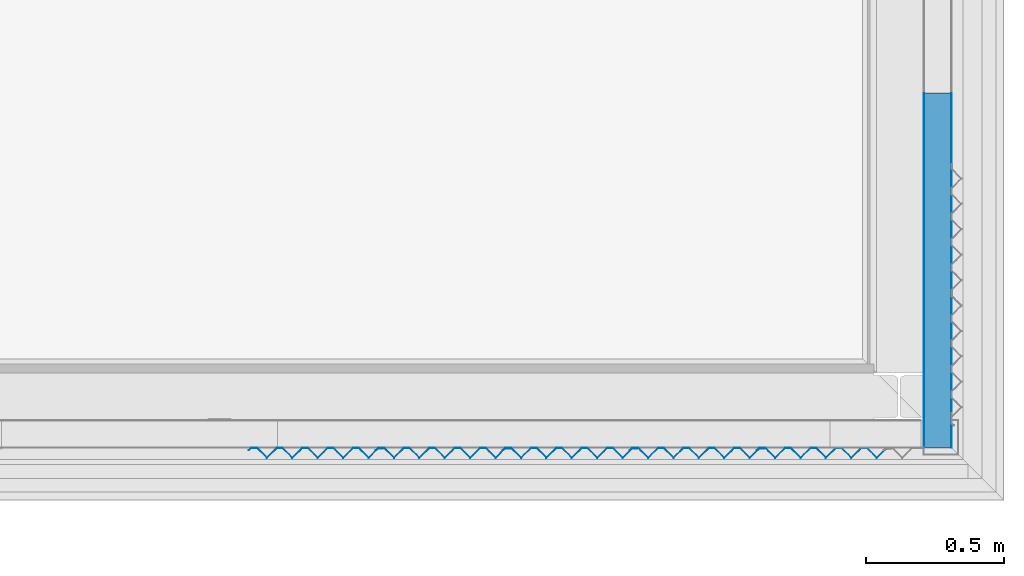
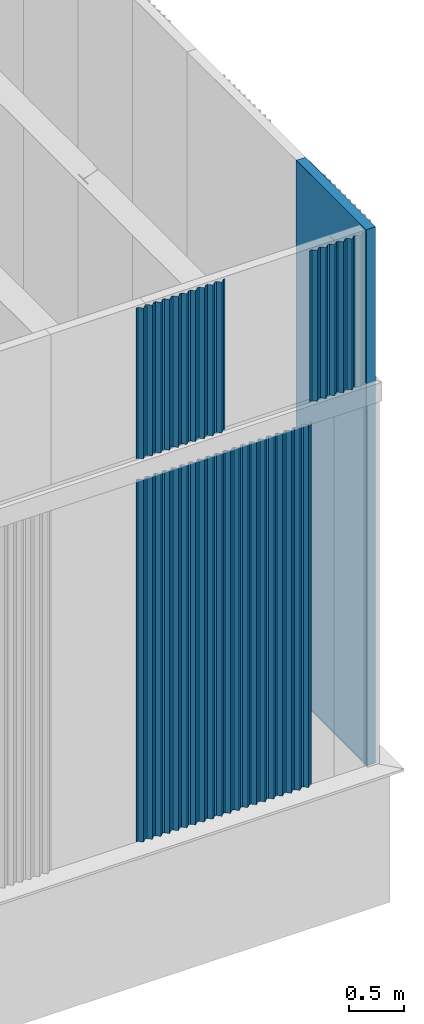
# One storey, part 101 of 338: 10 building element parts, 5 elements without a shape of their own.
"""IFC2X3 building model written with IfcOpenShell, lengths in millimetres."""

from ifc_helpers import new_model, entity, si_unit, converted_unit, derived_unit, money_unit, direction, frame, origin_with_axes, place, context, subcontext, project, spatial, faceted_brep, material, type_object, element, aggregate, save


model = new_model("IFC2X3")

# Units and contexts
model_context = context("Model", 3, precision=0.01, world=origin_with_axes(), true_north=direction((0.0, 1.0)))
plan_context = context("Plan", 3, precision=0.01, world=origin_with_axes(), true_north=direction((0.0, 1.0)))
body_context = subcontext(model_context, "Body", "Model", "MODEL_VIEW")
ifc_project = project(units=[si_unit("LENGTHUNIT", "METRE", prefix="MILLI"), si_unit("AREAUNIT", "SQUARE_METRE"), si_unit("VOLUMEUNIT", "CUBIC_METRE"), converted_unit("PLANEANGLEUNIT", "DEGREE", entity("IfcPlaneAngleMeasure", 0.0174532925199), si_unit("PLANEANGLEUNIT", "RADIAN"), dimensions=[0, 0, 0, 0, 0, 0, 0]), money_unit("EUR"), converted_unit("TIMEUNIT", "Year", entity("IfcTimeMeasure", 31556926.0), si_unit("TIMEUNIT", "SECOND"), dimensions=[0, 0, 1, 0, 0, 0, 0]), si_unit("MASSUNIT", "GRAM", prefix="KILO"), si_unit("THERMODYNAMICTEMPERATUREUNIT", "DEGREE_CELSIUS"), si_unit("LUMINOUSINTENSITYUNIT", "LUMEN"), si_unit("ENERGYUNIT", "JOULE", prefix="MEGA"), derived_unit("THERMALCONDUCTANCEUNIT", [(si_unit("POWERUNIT", "WATT"), 1), (si_unit("LENGTHUNIT", "METRE"), -1), (si_unit("THERMODYNAMICTEMPERATUREUNIT", "KELVIN"), -1)]), derived_unit("SPECIFICHEATCAPACITYUNIT", [(si_unit("ENERGYUNIT", "JOULE"), 1), (si_unit("MASSUNIT", "GRAM", prefix="KILO"), -1), (si_unit("THERMODYNAMICTEMPERATUREUNIT", "KELVIN"), -1)]), derived_unit("MASSDENSITYUNIT", [(si_unit("MASSUNIT", "GRAM", prefix="KILO"), 1), (si_unit("VOLUMEUNIT", "CUBIC_METRE"), -1)])], contexts=[model_context, plan_context])

# Site, building, storey
site_placement = place(None, origin_with_axes())
site = spatial("IfcSite", under=ifc_project, at=site_placement, Name="Fortuinstraat Woensdrecht", CompositionType="ELEMENT")
building_placement = place(site_placement, origin_with_axes())
building = spatial("IfcBuilding", under=site, at=building_placement, Name="IKC Fortuna", CompositionType="ELEMENT")
storey_placement = place(building_placement, origin_with_axes())
storey = spatial("IfcBuildingStorey", under=building, at=storey_placement, Name="00 begane grond", CompositionType="ELEMENT", Elevation=0.0)

# Wall, building element parts
wall_type = type_object("IfcWallType", Name="21 sandwich 100", PredefinedType="NOTDEFINED")
wall_placement = place(storey_placement, frame((59533.4270571, 22181.3126832, 1000.0), z_axis=(0.0, 0.0, 1.0), x_axis=(0.0, -1.0, 0.0)))
wall = element("IfcWall", 1, at=wall_placement, inside=storey, type_object=wall_type, Name="21_Wand_sandwichplaat")
ifc_material_1 = material(Name="Metaal - Aluminium")
building_element_part_1_placement = place(wall_placement, origin_with_axes())
building_element_part_1 = element("IfcBuildingElementPart", 2, at=building_element_part_1_placement, material=ifc_material_1, Name="Metaal - Aluminium", context=body_context, shape_type="Brep", body=[
    faceted_brep([(0.0, -0.999999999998, 6000.0), (1285.01605496, -0.999999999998, 6000.0), (1285.01605496, 0.0, 6000.0), (0.0, 0.0, 6000.0), (0.0, -0.999999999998, 0.0), (1285.01605496, -0.999999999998, 0.0), (1285.01605496, 0.0, 0.0), (0.0, 0.0, 0.0)], [[[0, 1, 2, 3]], [[4, 5, 1, 0]], [[2, 1, 5, 6]], [[3, 2, 6, 7]], [[4, 0, 3, 7]], [[7, 6, 5, 4]]]),
])
ifc_material_2 = material(Name="Isolatie - Kunststof hard")
building_element_part_2_placement = place(wall_placement, origin_with_axes())
building_element_part_2 = element("IfcBuildingElementPart", 3, at=building_element_part_2_placement, material=ifc_material_2, Name="Isolatie - Kunststof hard", context=body_context, shape_type="Brep", body=[
    faceted_brep([(1285.01605496, -99.0, 6000.0), (1285.01605496, -0.999999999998, 6000.0), (0.0, -0.999999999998, 6000.0), (0.0, -99.0, 6000.0), (1285.01605496, -99.0, 0.0), (1285.01605496, -0.999999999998, 0.0), (0.0, -0.999999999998, 0.0), (0.0, -99.0, 0.0)], [[[0, 1, 2, 3]], [[0, 4, 5, 1]], [[1, 5, 6, 2]], [[3, 2, 6, 7]], [[4, 0, 3, 7]], [[5, 4, 7, 6]]]),
])
building_element_part_3_placement = place(wall_placement, origin_with_axes())
building_element_part_3 = element("IfcBuildingElementPart", 4, at=building_element_part_3_placement, material=ifc_material_1, Name="Metaal - Aluminium", context=body_context, shape_type="Brep", body=[
    faceted_brep([(1186.01268746, -100.0, 0.0), (1186.01605494, -100.0, 18.9261694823), (1186.01605494, -98.9999999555, 18.9261694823), (1186.01268746, -99.0033674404, 0.0), (1285.01605496, -100.0, 0.0), (1285.01605496, -100.0, 6000.0), (0.0, -100.0, 6000.0), (0.0, -99.9999999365, 18.9263474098), (1185.01605496, -99.9999999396, 18.9263474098), (0.0, -99.0, 18.9261694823), (1285.01605496, -99.0, 6000.0), (1285.01605496, -99.0, 0.0), (0.0, -99.0, 6000.0)], [[[0, 1, 2, 3]], [[4, 5, 6, 7, 8, 1, 0]], [[1, 8, 7, 9, 2]], [[10, 11, 3, 2, 9, 12]], [[4, 0, 3, 11]], [[5, 4, 11, 10]], [[6, 5, 10, 12]], [[7, 6, 12, 9]]]),
])
aggregate(wall, [building_element_part_1, building_element_part_2, building_element_part_3])

# Proxy, building element parts
building_element_proxy_type_1 = type_object("IfcBuildingElementProxyType", Name="21 Sandwich custom pyramid 946 x 37", PredefinedType="NOTDEFINED")
proxy_1_placement = place(storey_placement, frame((58854.9270571, 20896.2966283, 1000.0), z_axis=(0.0, 0.0, 1.0), x_axis=(-1.0, 0.0, 0.0)))
proxy_1 = element("IfcBuildingElementProxy", 5, at=proxy_1_placement, inside=storey, type_object=building_element_proxy_type_1, Name="41_Generieke bekleding & afwerking buiten_sandwich custom pyramid")
building_element_part_4_placement = place(proxy_1_placement, origin_with_axes())
building_element_part_4 = element("IfcBuildingElementPart", 6, at=building_element_part_4_placement, material=ifc_material_1, Name="Metaal - Aluminium", context=body_context, shape_type="Brep", body=[
    faceted_brep([(0.0, 2.39999686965, 0.0), (0.0, 1.20000548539, 0.0), (0.0, 1.20000548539, 4060.85690076), (0.0, 2.39999686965, 4060.85690076), (16.7470988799, 2.39999686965, 0.0), (52.0000026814, 36.6736482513, 0.0), (88.487191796, 1.20000548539, 0.0), (107.51282048, 1.20000548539, 0.0), (143.999995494, 36.6736482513, 0.0), (180.487184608, 1.20000548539, 0.0), (199.512813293, 1.20000548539, 0.0), (236.000002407, 36.6736482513, 0.0), (272.487191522, 1.20000548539, 0.0), (291.512820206, 1.20000548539, 0.0), (327.99999522, 36.6736482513, 0.0), (364.487184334, 1.20000548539, 0.0), (383.512813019, 1.20000548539, 0.0), (420.000002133, 36.6736482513, 0.0), (456.487191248, 1.20000548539, 0.0), (460.000006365, 1.20000548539, 0.0), (477.23428491, 1.20000548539, 0.0), (485.472879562, 9.20975302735, 0.0), (486.309372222, 8.34935896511, 0.0), (477.721464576, 0.0, 0.0), (455.999997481, 0.0, 0.0), (420.000002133, 35.0000001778, 0.0), (384.000006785, 0.0, 0.0), (364.000004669, 0.0, 0.0), (327.99999522, 35.0000001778, 0.0), (291.999999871, 0.0, 0.0), (271.999997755, 0.0, 0.0), (236.000002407, 35.0000001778, 0.0), (199.999992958, 0.0, 0.0), (180.000004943, 0.0, 0.0), (143.999995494, 35.0000001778, 0.0), (108.000000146, 0.0, 0.0), (87.9999980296, 0.0, 0.0), (52.0000026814, 35.0000001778, 0.0), (17.2342926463, 1.20000548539, 0.0), (17.2342926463, 1.20000548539, 4060.85690076), (52.0000026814, 35.0000001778, 4060.85690076), (87.9999980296, 0.0, 4060.85690076), (108.000000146, 0.0, 4060.85690076), (143.999995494, 35.0000001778, 4060.85690076), (180.000004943, 0.0, 4060.85690076), (199.999992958, 0.0, 4060.85690076), (236.000002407, 35.0000001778, 4060.85690076), (271.999997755, 0.0, 4060.85690076), (291.999999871, 0.0, 4060.85690076), (327.99999522, 35.0000001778, 4060.85690076), (364.000004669, 0.0, 4060.85690076), (384.000006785, 0.0, 4060.85690076), (420.000002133, 35.0000001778, 4060.85690076), (455.999997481, 0.0, 4060.85690076), (477.721464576, 0.0, 4060.85690076), (486.309372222, 8.34935896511, 4060.85690076), (485.472879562, 9.20975302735, 4060.85690076), (477.23428491, 1.20000548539, 4060.85690076), (460.000006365, 1.20000548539, 4060.85690076), (456.487191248, 1.20000548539, 4060.85690076), (420.000002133, 36.6736482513, 4060.85690076), (383.512813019, 1.20000548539, 4060.85690076), (364.487184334, 1.20000548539, 4060.85690076), (327.99999522, 36.6736482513, 4060.85690076), (291.512820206, 1.20000548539, 4060.85690076), (272.487191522, 1.20000548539, 4060.85690076), (236.000002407, 36.6736482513, 4060.85690076), (199.512813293, 1.20000548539, 4060.85690076), (180.487184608, 1.20000548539, 4060.85690076), (143.999995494, 36.6736482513, 4060.85690076), (107.51282048, 1.20000548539, 4060.85690076), (88.487191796, 1.20000548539, 4060.85690076), (52.0000026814, 36.6736482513, 4060.85690076), (16.7470988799, 2.39999686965, 4060.85690076)], [[[0, 1, 2, 3]], [[0, 4, 5, 6, 7, 8, 9, 10, 11, 12, 13, 14, 15, 16, 17, 18, 19, 20, 21, 22, 23, 24, 25, 26, 27, 28, 29, 30, 31, 32, 33, 34, 35, 36, 37, 38, 1]], [[1, 38, 39, 2]], [[3, 2, 39, 40, 41, 42, 43, 44, 45, 46, 47, 48, 49, 50, 51, 52, 53, 54, 55, 56, 57, 58, 59, 60, 61, 62, 63, 64, 65, 66, 67, 68, 69, 70, 71, 72, 73]], [[4, 0, 3, 73]], [[5, 4, 73, 72]], [[6, 5, 72, 71]], [[7, 6, 71, 70]], [[8, 7, 70, 69]], [[9, 8, 69, 68]], [[10, 9, 68, 67]], [[11, 10, 67, 66]], [[12, 11, 66, 65]], [[13, 12, 65, 64]], [[14, 13, 64, 63]], [[15, 14, 63, 62]], [[16, 15, 62, 61]], [[17, 16, 61, 60]], [[18, 17, 60, 59]], [[19, 18, 59, 58]], [[20, 19, 58, 57]], [[21, 20, 57, 56]], [[22, 21, 56, 55]], [[23, 22, 55, 54]], [[24, 23, 54, 53]], [[25, 24, 53, 52]], [[26, 25, 52, 51]], [[27, 26, 51, 50]], [[28, 27, 50, 49]], [[29, 28, 49, 48]], [[30, 29, 48, 47]], [[31, 30, 47, 46]], [[32, 31, 46, 45]], [[33, 32, 45, 44]], [[34, 33, 44, 43]], [[35, 34, 43, 42]], [[36, 35, 42, 41]], [[37, 36, 41, 40]], [[38, 37, 40, 39]]]),
])
building_element_part_5_placement = place(proxy_1_placement, origin_with_axes())
building_element_part_5 = element("IfcBuildingElementPart", 7, at=building_element_part_5_placement, material=ifc_material_1, Name="Metaal - Aluminium", context=body_context, shape_type="Brep", body=[
    faceted_brep([(460.0, 1.2, 0.0), (477.234285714, 1.2, 0.0), (477.234285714, 1.2, 4060.85690076), (460.0, 1.2, 4060.85690076), (460.0, 2.4, 0.0), (476.747100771, 2.4, 0.0), (512.0, 36.6736520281, 0.0), (548.487184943, 1.2, 0.0), (567.512815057, 1.2, 0.0), (604.0, 36.6736520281, 0.0), (640.487184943, 1.2, 0.0), (659.512815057, 1.2, 0.0), (696.0, 36.6736520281, 0.0), (732.487184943, 1.2, 0.0), (751.512815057, 1.2, 0.0), (788.0, 36.6736520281, 0.0), (824.487184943, 1.2, 0.0), (843.512815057, 1.2, 0.0), (880.0, 36.6736520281, 0.0), (916.487184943, 1.2, 0.0), (937.234285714, 1.2, 0.0), (945.472884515, 9.20974883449, 0.0), (946.309378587, 8.34935493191, 0.0), (937.721470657, 0.0, 0.0), (916.0, 0.0, 0.0), (880.0, 35.0, 0.0), (844.0, 0.0, 0.0), (824.0, 0.0, 0.0), (788.0, 35.0, 0.0), (752.0, 0.0, 0.0), (732.0, 0.0, 0.0), (696.0, 35.0, 0.0), (660.0, 0.0, 0.0), (640.0, 0.0, 0.0), (604.0, 35.0, 0.0), (568.0, 0.0, 0.0), (548.0, 0.0, 0.0), (512.0, 35.0, 0.0), (485.472879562, 9.20975302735, 0.0), (485.472879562, 9.20975302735, 4060.85690076), (512.0, 35.0, 4060.85690076), (548.0, 0.0, 4060.85690076), (568.0, 0.0, 4060.85690076), (604.0, 35.0, 4060.85690076), (640.0, 0.0, 4060.85690076), (660.0, 0.0, 4060.85690076), (696.0, 35.0, 4060.85690076), (732.0, 0.0, 4060.85690076), (752.0, 0.0, 4060.85690076), (788.0, 35.0, 4060.85690076), (824.0, 0.0, 4060.85690076), (844.0, 0.0, 4060.85690076), (880.0, 35.0, 4060.85690076), (916.0, 0.0, 4060.85690076), (937.721470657, 0.0, 4060.85690076), (946.309378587, 8.34935493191, 4060.85690076), (945.472884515, 9.20974883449, 4060.85690076), (937.234285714, 1.2, 4060.85690076), (916.487184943, 1.2, 4060.85690076), (880.0, 36.6736520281, 4060.85690076), (843.512815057, 1.2, 4060.85690076), (824.487184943, 1.2, 4060.85690076), (788.0, 36.6736520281, 4060.85690076), (751.512815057, 1.2, 4060.85690076), (732.487184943, 1.2, 4060.85690076), (696.0, 36.6736520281, 4060.85690076), (659.512815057, 1.2, 4060.85690076), (640.487184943, 1.2, 4060.85690076), (604.0, 36.6736520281, 4060.85690076), (567.512815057, 1.2, 4060.85690076), (548.487184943, 1.2, 4060.85690076), (512.0, 36.6736520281, 4060.85690076), (476.747100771, 2.4, 4060.85690076), (460.0, 2.4, 4060.85690076)], [[[0, 1, 2, 3]], [[0, 4, 5, 6, 7, 8, 9, 10, 11, 12, 13, 14, 15, 16, 17, 18, 19, 20, 21, 22, 23, 24, 25, 26, 27, 28, 29, 30, 31, 32, 33, 34, 35, 36, 37, 38, 1]], [[1, 38, 39, 2]], [[3, 2, 39, 40, 41, 42, 43, 44, 45, 46, 47, 48, 49, 50, 51, 52, 53, 54, 55, 56, 57, 58, 59, 60, 61, 62, 63, 64, 65, 66, 67, 68, 69, 70, 71, 72, 73]], [[4, 0, 3, 73]], [[5, 4, 73, 72]], [[6, 5, 72, 71]], [[7, 6, 71, 70]], [[8, 7, 70, 69]], [[9, 8, 69, 68]], [[10, 9, 68, 67]], [[11, 10, 67, 66]], [[12, 11, 66, 65]], [[13, 12, 65, 64]], [[14, 13, 64, 63]], [[15, 14, 63, 62]], [[16, 15, 62, 61]], [[17, 16, 61, 60]], [[18, 17, 60, 59]], [[19, 18, 59, 58]], [[20, 19, 58, 57]], [[21, 20, 57, 56]], [[22, 21, 56, 55]], [[23, 22, 55, 54]], [[24, 23, 54, 53]], [[25, 24, 53, 52]], [[26, 25, 52, 51]], [[27, 26, 51, 50]], [[28, 27, 50, 49]], [[29, 28, 49, 48]], [[30, 29, 48, 47]], [[31, 30, 47, 46]], [[32, 31, 46, 45]], [[33, 32, 45, 44]], [[34, 33, 44, 43]], [[35, 34, 43, 42]], [[36, 35, 42, 41]], [[37, 36, 41, 40]], [[38, 37, 40, 39]]]),
])
aggregate(proxy_1, [building_element_part_4, building_element_part_5])

# Proxy, building element part
building_element_proxy_type_2 = type_object("IfcBuildingElementProxyType", Name="21 Sandwich custom pyramid HOEK 582 x 37", PredefinedType="NOTDEFINED")
proxy_2_placement = place(storey_placement, frame((59774.9270571, 20896.2966283, 5289.99999237), z_axis=(0.0, 0.0, 1.0), x_axis=(-1.0, 0.0, 0.0)))
proxy_2 = element("IfcBuildingElementProxy", 8, at=proxy_2_placement, inside=storey, type_object=building_element_proxy_type_2, Name="41_Generieke bekleding & afwerking buiten_sandwich custom pyramid")
building_element_part_6_placement = place(proxy_2_placement, origin_with_axes())
building_element_part_6 = element("IfcBuildingElementPart", 9, at=building_element_part_6_placement, material=ifc_material_1, Name="Metaal - Aluminium", context=body_context, shape_type="Brep", body=[
    faceted_brep([(460.0, 1.2, 0.0), (477.234285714, 1.2, 0.0), (477.234285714, 1.2, 1690.00000566), (460.0, 1.2, 1690.00000566), (460.0, 2.40000000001, 0.0), (476.747100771, 2.40000000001, 0.0), (512.0, 36.6736520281, 0.0), (548.487184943, 1.2, 0.0), (567.512815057, 1.2, 0.0), (604.0, 36.6736520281, 0.0), (640.487184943, 1.2, 0.0), (659.512815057, 1.2, 0.0), (696.0, 36.6736520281, 0.0), (732.487184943, 1.2, 0.0), (751.512815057, 1.2, 0.0), (788.0, 36.6736520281, 0.0), (824.487184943, 1.2, 0.0), (843.512815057, 1.2, 0.0), (880.0, 36.6736520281, 0.0), (916.487184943, 1.2, 0.0), (937.234285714, 1.2, 0.0), (945.472884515, 9.20974883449, 0.0), (946.309378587, 8.34935493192, 0.0), (937.721470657, 0.0, 0.0), (916.0, 0.0, 0.0), (880.0, 35.0, 0.0), (844.0, 0.0, 0.0), (824.0, 0.0, 0.0), (788.0, 35.0, 0.0), (752.0, 0.0, 0.0), (732.0, 0.0, 0.0), (696.0, 35.0, 0.0), (660.0, 0.0, 0.0), (640.0, 0.0, 0.0), (604.0, 35.0, 0.0), (568.0, 0.0, 0.0), (548.0, 0.0, 0.0), (512.0, 35.0, 0.0), (485.472888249, 9.20974850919, 0.0), (485.472888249, 9.20974850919, 1690.00000566), (512.0, 35.0, 1690.00000566), (548.0, 0.0, 1690.00000566), (568.0, 0.0, 1690.00000566), (604.0, 35.0, 1690.00000566), (640.0, 0.0, 1690.00000566), (660.0, 0.0, 1690.00000566), (696.0, 35.0, 1690.00000566), (732.0, 0.0, 1690.00000566), (752.0, 0.0, 1690.00000566), (788.0, 35.0, 1690.00000566), (824.0, 0.0, 1690.00000566), (844.0, 0.0, 1690.00000566), (880.0, 35.0, 1690.00000566), (916.0, 0.0, 1690.00000566), (937.721470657, 0.0, 1690.00000566), (946.309378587, 8.34935493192, 1690.00000566), (945.472884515, 9.20974883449, 1690.00000566), (937.234285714, 1.2, 1690.00000566), (916.487184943, 1.2, 1690.00000566), (880.0, 36.6736520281, 1690.00000566), (843.512815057, 1.2, 1690.00000566), (824.487184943, 1.2, 1690.00000566), (788.0, 36.6736520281, 1690.00000566), (751.512815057, 1.2, 1690.00000566), (732.487184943, 1.2, 1690.00000566), (696.0, 36.6736520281, 1690.00000566), (659.512815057, 1.2, 1690.00000566), (640.487184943, 1.2, 1690.00000566), (604.0, 36.6736520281, 1690.00000566), (567.512815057, 1.2, 1690.00000566), (548.487184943, 1.2, 1690.00000566), (512.0, 36.6736520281, 1690.00000566), (476.747100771, 2.40000000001, 1690.00000566), (460.0, 2.40000000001, 1690.00000566)], [[[0, 1, 2, 3]], [[0, 4, 5, 6, 7, 8, 9, 10, 11, 12, 13, 14, 15, 16, 17, 18, 19, 20, 21, 22, 23, 24, 25, 26, 27, 28, 29, 30, 31, 32, 33, 34, 35, 36, 37, 38, 1]], [[1, 38, 39, 2]], [[3, 2, 39, 40, 41, 42, 43, 44, 45, 46, 47, 48, 49, 50, 51, 52, 53, 54, 55, 56, 57, 58, 59, 60, 61, 62, 63, 64, 65, 66, 67, 68, 69, 70, 71, 72, 73]], [[4, 0, 3, 73]], [[5, 4, 73, 72]], [[6, 5, 72, 71]], [[7, 6, 71, 70]], [[8, 7, 70, 69]], [[9, 8, 69, 68]], [[10, 9, 68, 67]], [[11, 10, 67, 66]], [[12, 11, 66, 65]], [[13, 12, 65, 64]], [[14, 13, 64, 63]], [[15, 14, 63, 62]], [[16, 15, 62, 61]], [[17, 16, 61, 60]], [[18, 17, 60, 59]], [[19, 18, 59, 58]], [[20, 19, 58, 57]], [[21, 20, 57, 56]], [[22, 21, 56, 55]], [[23, 22, 55, 54]], [[24, 23, 54, 53]], [[25, 24, 53, 52]], [[26, 25, 52, 51]], [[27, 26, 51, 50]], [[28, 27, 50, 49]], [[29, 28, 49, 48]], [[30, 29, 48, 47]], [[31, 30, 47, 46]], [[32, 31, 46, 45]], [[33, 32, 45, 44]], [[34, 33, 44, 43]], [[35, 34, 43, 42]], [[36, 35, 42, 41]], [[37, 36, 41, 40]], [[38, 37, 40, 39]]]),
])
aggregate(proxy_2, [building_element_part_6])

# Proxy, building element parts
proxy_3_placement = place(storey_placement, frame((57934.9270571, 20896.2966283, 1000.0), z_axis=(0.0, 0.0, 1.0), x_axis=(-1.0, 0.0, 0.0)))
proxy_3 = element("IfcBuildingElementProxy", 10, at=proxy_3_placement, inside=storey, type_object=building_element_proxy_type_1, Name="41_Generieke bekleding & afwerking buiten_sandwich custom pyramid")
building_element_part_7_placement = place(proxy_3_placement, origin_with_axes())
building_element_part_7 = element("IfcBuildingElementPart", 11, at=building_element_part_7_placement, material=ifc_material_1, Name="Metaal - Aluminium", context=body_context, shape_type="Brep", body=[
    faceted_brep([(0.0, 2.39999686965, 0.0), (0.0, 1.20000548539, 0.0), (0.0, 1.20000548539, 4060.85690076), (0.0, 2.39999686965, 4060.85690076), (16.7470988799, 2.39999686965, 0.0), (52.0000026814, 36.6736482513, 0.0), (88.487191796, 1.20000548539, 0.0), (107.51282048, 1.20000548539, 0.0), (143.999995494, 36.6736482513, 0.0), (180.487184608, 1.20000548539, 0.0), (199.512813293, 1.20000548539, 0.0), (236.000002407, 36.6736482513, 0.0), (272.487191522, 1.20000548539, 0.0), (291.512820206, 1.20000548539, 0.0), (327.99999522, 36.6736482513, 0.0), (364.487184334, 1.20000548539, 0.0), (383.512813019, 1.20000548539, 0.0), (420.000002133, 36.6736482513, 0.0), (456.487191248, 1.20000548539, 0.0), (460.000006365, 1.20000548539, 0.0), (477.23428491, 1.20000548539, 0.0), (485.472879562, 9.20975302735, 0.0), (486.309372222, 8.34935896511, 0.0), (477.721464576, 0.0, 0.0), (455.999997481, 0.0, 0.0), (420.000002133, 35.0000001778, 0.0), (384.000006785, 0.0, 0.0), (364.000004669, 0.0, 0.0), (327.99999522, 35.0000001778, 0.0), (291.999999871, 0.0, 0.0), (271.999997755, 0.0, 0.0), (236.000002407, 35.0000001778, 0.0), (199.999992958, 0.0, 0.0), (180.000004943, 0.0, 0.0), (143.999995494, 35.0000001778, 0.0), (108.000000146, 0.0, 0.0), (87.9999980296, 0.0, 0.0), (52.0000026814, 35.0000001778, 0.0), (17.2342926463, 1.20000548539, 0.0), (17.2342926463, 1.20000548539, 4060.85690076), (52.0000026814, 35.0000001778, 4060.85690076), (87.9999980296, 0.0, 4060.85690076), (108.000000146, 0.0, 4060.85690076), (143.999995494, 35.0000001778, 4060.85690076), (180.000004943, 0.0, 4060.85690076), (199.999992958, 0.0, 4060.85690076), (236.000002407, 35.0000001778, 4060.85690076), (271.999997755, 0.0, 4060.85690076), (291.999999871, 0.0, 4060.85690076), (327.99999522, 35.0000001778, 4060.85690076), (364.000004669, 0.0, 4060.85690076), (384.000006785, 0.0, 4060.85690076), (420.000002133, 35.0000001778, 4060.85690076), (455.999997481, 0.0, 4060.85690076), (477.721464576, 0.0, 4060.85690076), (486.309372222, 8.34935896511, 4060.85690076), (485.472879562, 9.20975302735, 4060.85690076), (477.23428491, 1.20000548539, 4060.85690076), (460.000006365, 1.20000548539, 4060.85690076), (456.487191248, 1.20000548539, 4060.85690076), (420.000002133, 36.6736482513, 4060.85690076), (383.512813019, 1.20000548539, 4060.85690076), (364.487184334, 1.20000548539, 4060.85690076), (327.99999522, 36.6736482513, 4060.85690076), (291.512820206, 1.20000548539, 4060.85690076), (272.487191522, 1.20000548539, 4060.85690076), (236.000002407, 36.6736482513, 4060.85690076), (199.512813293, 1.20000548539, 4060.85690076), (180.487184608, 1.20000548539, 4060.85690076), (143.999995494, 36.6736482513, 4060.85690076), (107.51282048, 1.20000548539, 4060.85690076), (88.487191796, 1.20000548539, 4060.85690076), (52.0000026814, 36.6736482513, 4060.85690076), (16.7470988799, 2.39999686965, 4060.85690076)], [[[0, 1, 2, 3]], [[0, 4, 5, 6, 7, 8, 9, 10, 11, 12, 13, 14, 15, 16, 17, 18, 19, 20, 21, 22, 23, 24, 25, 26, 27, 28, 29, 30, 31, 32, 33, 34, 35, 36, 37, 38, 1]], [[1, 38, 39, 2]], [[3, 2, 39, 40, 41, 42, 43, 44, 45, 46, 47, 48, 49, 50, 51, 52, 53, 54, 55, 56, 57, 58, 59, 60, 61, 62, 63, 64, 65, 66, 67, 68, 69, 70, 71, 72, 73]], [[4, 0, 3, 73]], [[5, 4, 73, 72]], [[6, 5, 72, 71]], [[7, 6, 71, 70]], [[8, 7, 70, 69]], [[9, 8, 69, 68]], [[10, 9, 68, 67]], [[11, 10, 67, 66]], [[12, 11, 66, 65]], [[13, 12, 65, 64]], [[14, 13, 64, 63]], [[15, 14, 63, 62]], [[16, 15, 62, 61]], [[17, 16, 61, 60]], [[18, 17, 60, 59]], [[19, 18, 59, 58]], [[20, 19, 58, 57]], [[21, 20, 57, 56]], [[22, 21, 56, 55]], [[23, 22, 55, 54]], [[24, 23, 54, 53]], [[25, 24, 53, 52]], [[26, 25, 52, 51]], [[27, 26, 51, 50]], [[28, 27, 50, 49]], [[29, 28, 49, 48]], [[30, 29, 48, 47]], [[31, 30, 47, 46]], [[32, 31, 46, 45]], [[33, 32, 45, 44]], [[34, 33, 44, 43]], [[35, 34, 43, 42]], [[36, 35, 42, 41]], [[37, 36, 41, 40]], [[38, 37, 40, 39]]]),
])
building_element_part_8_placement = place(proxy_3_placement, origin_with_axes())
building_element_part_8 = element("IfcBuildingElementPart", 12, at=building_element_part_8_placement, material=ifc_material_1, Name="Metaal - Aluminium", context=body_context, shape_type="Brep", body=[
    faceted_brep([(460.0, 1.2, 0.0), (477.234285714, 1.2, 0.0), (477.234285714, 1.2, 4060.85690076), (460.0, 1.2, 4060.85690076), (460.0, 2.4, 0.0), (476.747100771, 2.4, 0.0), (512.0, 36.6736520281, 0.0), (548.487184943, 1.2, 0.0), (567.512815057, 1.2, 0.0), (604.0, 36.6736520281, 0.0), (640.487184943, 1.2, 0.0), (659.512815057, 1.2, 0.0), (696.0, 36.6736520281, 0.0), (732.487184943, 1.2, 0.0), (751.512815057, 1.2, 0.0), (788.0, 36.6736520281, 0.0), (824.487184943, 1.2, 0.0), (843.512815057, 1.2, 0.0), (880.0, 36.6736520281, 0.0), (916.487184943, 1.2, 0.0), (937.234285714, 1.2, 0.0), (945.472884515, 9.20974883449, 0.0), (946.309378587, 8.34935493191, 0.0), (937.721470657, 0.0, 0.0), (916.0, 0.0, 0.0), (880.0, 35.0, 0.0), (844.0, 0.0, 0.0), (824.0, 0.0, 0.0), (788.0, 35.0, 0.0), (752.0, 0.0, 0.0), (732.0, 0.0, 0.0), (696.0, 35.0, 0.0), (660.0, 0.0, 0.0), (640.0, 0.0, 0.0), (604.0, 35.0, 0.0), (568.0, 0.0, 0.0), (548.0, 0.0, 0.0), (512.0, 35.0, 0.0), (485.472879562, 9.20975302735, 0.0), (485.472879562, 9.20975302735, 4060.85690076), (512.0, 35.0, 4060.85690076), (548.0, 0.0, 4060.85690076), (568.0, 0.0, 4060.85690076), (604.0, 35.0, 4060.85690076), (640.0, 0.0, 4060.85690076), (660.0, 0.0, 4060.85690076), (696.0, 35.0, 4060.85690076), (732.0, 0.0, 4060.85690076), (752.0, 0.0, 4060.85690076), (788.0, 35.0, 4060.85690076), (824.0, 0.0, 4060.85690076), (844.0, 0.0, 4060.85690076), (880.0, 35.0, 4060.85690076), (916.0, 0.0, 4060.85690076), (937.721470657, 0.0, 4060.85690076), (946.309378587, 8.34935493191, 4060.85690076), (945.472884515, 9.20974883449, 4060.85690076), (937.234285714, 1.2, 4060.85690076), (916.487184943, 1.2, 4060.85690076), (880.0, 36.6736520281, 4060.85690076), (843.512815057, 1.2, 4060.85690076), (824.487184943, 1.2, 4060.85690076), (788.0, 36.6736520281, 4060.85690076), (751.512815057, 1.2, 4060.85690076), (732.487184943, 1.2, 4060.85690076), (696.0, 36.6736520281, 4060.85690076), (659.512815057, 1.2, 4060.85690076), (640.487184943, 1.2, 4060.85690076), (604.0, 36.6736520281, 4060.85690076), (567.512815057, 1.2, 4060.85690076), (548.487184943, 1.2, 4060.85690076), (512.0, 36.6736520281, 4060.85690076), (476.747100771, 2.4, 4060.85690076), (460.0, 2.4, 4060.85690076)], [[[0, 1, 2, 3]], [[0, 4, 5, 6, 7, 8, 9, 10, 11, 12, 13, 14, 15, 16, 17, 18, 19, 20, 21, 22, 23, 24, 25, 26, 27, 28, 29, 30, 31, 32, 33, 34, 35, 36, 37, 38, 1]], [[1, 38, 39, 2]], [[3, 2, 39, 40, 41, 42, 43, 44, 45, 46, 47, 48, 49, 50, 51, 52, 53, 54, 55, 56, 57, 58, 59, 60, 61, 62, 63, 64, 65, 66, 67, 68, 69, 70, 71, 72, 73]], [[4, 0, 3, 73]], [[5, 4, 73, 72]], [[6, 5, 72, 71]], [[7, 6, 71, 70]], [[8, 7, 70, 69]], [[9, 8, 69, 68]], [[10, 9, 68, 67]], [[11, 10, 67, 66]], [[12, 11, 66, 65]], [[13, 12, 65, 64]], [[14, 13, 64, 63]], [[15, 14, 63, 62]], [[16, 15, 62, 61]], [[17, 16, 61, 60]], [[18, 17, 60, 59]], [[19, 18, 59, 58]], [[20, 19, 58, 57]], [[21, 20, 57, 56]], [[22, 21, 56, 55]], [[23, 22, 55, 54]], [[24, 23, 54, 53]], [[25, 24, 53, 52]], [[26, 25, 52, 51]], [[27, 26, 51, 50]], [[28, 27, 50, 49]], [[29, 28, 49, 48]], [[30, 29, 48, 47]], [[31, 30, 47, 46]], [[32, 31, 46, 45]], [[33, 32, 45, 44]], [[34, 33, 44, 43]], [[35, 34, 43, 42]], [[36, 35, 42, 41]], [[37, 36, 41, 40]], [[38, 37, 40, 39]]]),
])
aggregate(proxy_3, [building_element_part_7, building_element_part_8])

proxy_4_placement = place(storey_placement, frame((57934.9270571, 20896.2966283, 5289.99999237), z_axis=(0.0, 0.0, 1.0), x_axis=(-1.0, 0.0, 0.0)))
proxy_4 = element("IfcBuildingElementProxy", 13, at=proxy_4_placement, inside=storey, type_object=building_element_proxy_type_1, Name="41_Generieke bekleding & afwerking buiten_sandwich custom pyramid")
building_element_part_9_placement = place(proxy_4_placement, origin_with_axes())
building_element_part_9 = element("IfcBuildingElementPart", 14, at=building_element_part_9_placement, material=ifc_material_1, Name="Metaal - Aluminium", context=body_context, shape_type="Brep", body=[
    faceted_brep([(0.0, 2.39999686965, 0.0), (0.0, 1.20000548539, 0.0), (0.0, 1.20000548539, 1690.00000566), (0.0, 2.39999686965, 1690.00000566), (16.7470988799, 2.39999686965, 0.0), (52.0000026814, 36.6736482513, 0.0), (88.487191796, 1.20000548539, 0.0), (107.51282048, 1.20000548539, 0.0), (143.999995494, 36.6736482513, 0.0), (180.487184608, 1.20000548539, 0.0), (199.512813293, 1.20000548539, 0.0), (236.000002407, 36.6736482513, 0.0), (272.487191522, 1.20000548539, 0.0), (291.512820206, 1.20000548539, 0.0), (327.99999522, 36.6736482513, 0.0), (364.487184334, 1.20000548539, 0.0), (383.512813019, 1.20000548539, 0.0), (420.000002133, 36.6736482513, 0.0), (456.487191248, 1.20000548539, 0.0), (460.000006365, 1.20000548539, 0.0), (477.23428491, 1.20000548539, 0.0), (485.472879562, 9.20975302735, 0.0), (486.309372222, 8.34935896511, 0.0), (477.721464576, 0.0, 0.0), (455.999997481, 0.0, 0.0), (420.000002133, 35.0000001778, 0.0), (384.000006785, 0.0, 0.0), (364.000004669, 0.0, 0.0), (327.99999522, 35.0000001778, 0.0), (291.999999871, 0.0, 0.0), (271.999997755, 0.0, 0.0), (236.000002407, 35.0000001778, 0.0), (199.999992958, 0.0, 0.0), (180.000004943, 0.0, 0.0), (143.999995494, 35.0000001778, 0.0), (108.000000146, 0.0, 0.0), (87.9999980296, 0.0, 0.0), (52.0000026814, 35.0000001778, 0.0), (17.2342926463, 1.20000548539, 0.0), (17.2342926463, 1.20000548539, 1690.00000566), (52.0000026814, 35.0000001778, 1690.00000566), (87.9999980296, 0.0, 1690.00000566), (108.000000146, 0.0, 1690.00000566), (143.999995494, 35.0000001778, 1690.00000566), (180.000004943, 0.0, 1690.00000566), (199.999992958, 0.0, 1690.00000566), (236.000002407, 35.0000001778, 1690.00000566), (271.999997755, 0.0, 1690.00000566), (291.999999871, 0.0, 1690.00000566), (327.99999522, 35.0000001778, 1690.00000566), (364.000004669, 0.0, 1690.00000566), (384.000006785, 0.0, 1690.00000566), (420.000002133, 35.0000001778, 1690.00000566), (455.999997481, 0.0, 1690.00000566), (477.721464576, 0.0, 1690.00000566), (486.309372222, 8.34935896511, 1690.00000566), (485.472879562, 9.20975302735, 1690.00000566), (477.23428491, 1.20000548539, 1690.00000566), (460.000006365, 1.20000548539, 1690.00000566), (456.487191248, 1.20000548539, 1690.00000566), (420.000002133, 36.6736482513, 1690.00000566), (383.512813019, 1.20000548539, 1690.00000566), (364.487184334, 1.20000548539, 1690.00000566), (327.99999522, 36.6736482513, 1690.00000566), (291.512820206, 1.20000548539, 1690.00000566), (272.487191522, 1.20000548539, 1690.00000566), (236.000002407, 36.6736482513, 1690.00000566), (199.512813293, 1.20000548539, 1690.00000566), (180.487184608, 1.20000548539, 1690.00000566), (143.999995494, 36.6736482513, 1690.00000566), (107.51282048, 1.20000548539, 1690.00000566), (88.487191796, 1.20000548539, 1690.00000566), (52.0000026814, 36.6736482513, 1690.00000566), (16.7470988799, 2.39999686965, 1690.00000566)], [[[0, 1, 2, 3]], [[0, 4, 5, 6, 7, 8, 9, 10, 11, 12, 13, 14, 15, 16, 17, 18, 19, 20, 21, 22, 23, 24, 25, 26, 27, 28, 29, 30, 31, 32, 33, 34, 35, 36, 37, 38, 1]], [[1, 38, 39, 2]], [[3, 2, 39, 40, 41, 42, 43, 44, 45, 46, 47, 48, 49, 50, 51, 52, 53, 54, 55, 56, 57, 58, 59, 60, 61, 62, 63, 64, 65, 66, 67, 68, 69, 70, 71, 72, 73]], [[4, 0, 3, 73]], [[5, 4, 73, 72]], [[6, 5, 72, 71]], [[7, 6, 71, 70]], [[8, 7, 70, 69]], [[9, 8, 69, 68]], [[10, 9, 68, 67]], [[11, 10, 67, 66]], [[12, 11, 66, 65]], [[13, 12, 65, 64]], [[14, 13, 64, 63]], [[15, 14, 63, 62]], [[16, 15, 62, 61]], [[17, 16, 61, 60]], [[18, 17, 60, 59]], [[19, 18, 59, 58]], [[20, 19, 58, 57]], [[21, 20, 57, 56]], [[22, 21, 56, 55]], [[23, 22, 55, 54]], [[24, 23, 54, 53]], [[25, 24, 53, 52]], [[26, 25, 52, 51]], [[27, 26, 51, 50]], [[28, 27, 50, 49]], [[29, 28, 49, 48]], [[30, 29, 48, 47]], [[31, 30, 47, 46]], [[32, 31, 46, 45]], [[33, 32, 45, 44]], [[34, 33, 44, 43]], [[35, 34, 43, 42]], [[36, 35, 42, 41]], [[37, 36, 41, 40]], [[38, 37, 40, 39]]]),
])
building_element_part_10_placement = place(proxy_4_placement, origin_with_axes())
building_element_part_10 = element("IfcBuildingElementPart", 15, at=building_element_part_10_placement, material=ifc_material_1, Name="Metaal - Aluminium", context=body_context, shape_type="Brep", body=[
    faceted_brep([(460.0, 1.2, 0.0), (477.234285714, 1.2, 0.0), (477.234285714, 1.2, 1690.00000566), (460.0, 1.2, 1690.00000566), (460.0, 2.4, 0.0), (476.747100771, 2.4, 0.0), (512.0, 36.6736520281, 0.0), (548.487184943, 1.2, 0.0), (567.512815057, 1.2, 0.0), (604.0, 36.6736520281, 0.0), (640.487184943, 1.2, 0.0), (659.512815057, 1.2, 0.0), (696.0, 36.6736520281, 0.0), (732.487184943, 1.2, 0.0), (751.512815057, 1.2, 0.0), (788.0, 36.6736520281, 0.0), (824.487184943, 1.2, 0.0), (843.512815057, 1.2, 0.0), (880.0, 36.6736520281, 0.0), (916.487184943, 1.2, 0.0), (937.234285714, 1.2, 0.0), (945.472884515, 9.20974883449, 0.0), (946.309378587, 8.34935493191, 0.0), (937.721470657, 0.0, 0.0), (916.0, 0.0, 0.0), (880.0, 35.0, 0.0), (844.0, 0.0, 0.0), (824.0, 0.0, 0.0), (788.0, 35.0, 0.0), (752.0, 0.0, 0.0), (732.0, 0.0, 0.0), (696.0, 35.0, 0.0), (660.0, 0.0, 0.0), (640.0, 0.0, 0.0), (604.0, 35.0, 0.0), (568.0, 0.0, 0.0), (548.0, 0.0, 0.0), (512.0, 35.0, 0.0), (485.472879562, 9.20975302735, 0.0), (485.472879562, 9.20975302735, 1690.00000566), (512.0, 35.0, 1690.00000566), (548.0, 0.0, 1690.00000566), (568.0, 0.0, 1690.00000566), (604.0, 35.0, 1690.00000566), (640.0, 0.0, 1690.00000566), (660.0, 0.0, 1690.00000566), (696.0, 35.0, 1690.00000566), (732.0, 0.0, 1690.00000566), (752.0, 0.0, 1690.00000566), (788.0, 35.0, 1690.00000566), (824.0, 0.0, 1690.00000566), (844.0, 0.0, 1690.00000566), (880.0, 35.0, 1690.00000566), (916.0, 0.0, 1690.00000566), (937.721470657, 0.0, 1690.00000566), (946.309378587, 8.34935493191, 1690.00000566), (945.472884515, 9.20974883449, 1690.00000566), (937.234285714, 1.2, 1690.00000566), (916.487184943, 1.2, 1690.00000566), (880.0, 36.6736520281, 1690.00000566), (843.512815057, 1.2, 1690.00000566), (824.487184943, 1.2, 1690.00000566), (788.0, 36.6736520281, 1690.00000566), (751.512815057, 1.2, 1690.00000566), (732.487184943, 1.2, 1690.00000566), (696.0, 36.6736520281, 1690.00000566), (659.512815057, 1.2, 1690.00000566), (640.487184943, 1.2, 1690.00000566), (604.0, 36.6736520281, 1690.00000566), (567.512815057, 1.2, 1690.00000566), (548.487184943, 1.2, 1690.00000566), (512.0, 36.6736520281, 1690.00000566), (476.747100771, 2.4, 1690.00000566), (460.0, 2.4, 1690.00000566)], [[[0, 1, 2, 3]], [[0, 4, 5, 6, 7, 8, 9, 10, 11, 12, 13, 14, 15, 16, 17, 18, 19, 20, 21, 22, 23, 24, 25, 26, 27, 28, 29, 30, 31, 32, 33, 34, 35, 36, 37, 38, 1]], [[1, 38, 39, 2]], [[3, 2, 39, 40, 41, 42, 43, 44, 45, 46, 47, 48, 49, 50, 51, 52, 53, 54, 55, 56, 57, 58, 59, 60, 61, 62, 63, 64, 65, 66, 67, 68, 69, 70, 71, 72, 73]], [[4, 0, 3, 73]], [[5, 4, 73, 72]], [[6, 5, 72, 71]], [[7, 6, 71, 70]], [[8, 7, 70, 69]], [[9, 8, 69, 68]], [[10, 9, 68, 67]], [[11, 10, 67, 66]], [[12, 11, 66, 65]], [[13, 12, 65, 64]], [[14, 13, 64, 63]], [[15, 14, 63, 62]], [[16, 15, 62, 61]], [[17, 16, 61, 60]], [[18, 17, 60, 59]], [[19, 18, 59, 58]], [[20, 19, 58, 57]], [[21, 20, 57, 56]], [[22, 21, 56, 55]], [[23, 22, 55, 54]], [[24, 23, 54, 53]], [[25, 24, 53, 52]], [[26, 25, 52, 51]], [[27, 26, 51, 50]], [[28, 27, 50, 49]], [[29, 28, 49, 48]], [[30, 29, 48, 47]], [[31, 30, 47, 46]], [[32, 31, 46, 45]], [[33, 32, 45, 44]], [[34, 33, 44, 43]], [[35, 34, 43, 42]], [[36, 35, 42, 41]], [[37, 36, 41, 40]], [[38, 37, 40, 39]]]),
])
aggregate(proxy_4, [building_element_part_9, building_element_part_10])

save(model, "model.ifc")
